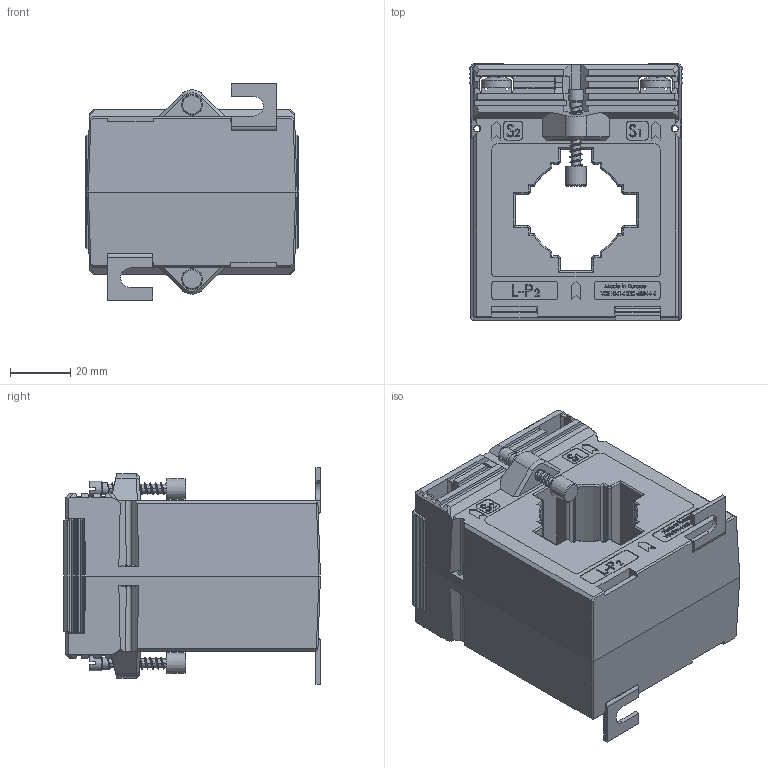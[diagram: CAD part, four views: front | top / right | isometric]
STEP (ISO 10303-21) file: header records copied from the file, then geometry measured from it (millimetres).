
FILE_DESCRIPTION(/* description */ (''),/* implementation_level */ '2;1');
FILE_NAME(/* name */ 'ASK41.5.stp',/* time_stamp */ '2024-03-04T12:42:42+01:00',/* author */ ('JDI'),/* organization */ (''),/* preprocessor_version */ 'ST-DEVELOPER v19.2',/* originating_system */ 'Autodesk Inventor 2023',/* authorisation */ '');
FILE_SCHEMA (('AUTOMOTIVE_DESIGN { 1 0 10303 214 3 1 1 }'));
Products named in the file (1): ASK41.5
Bounding box: 71 x 85.5 x 72 mm (x, y, z)
Volume: 228330.9 mm3; surface area: 46979.9 mm2
Topology: 1 solids, 1 shells, 1909 faces, 5055 edges, 3246 vertices
Faces by surface type: plane 1310, bspline 334, cylinder 206, cone 39, torus 12, sphere 8
Full cylindrical faces by diameter (mm): 2.95 x2, 3 x26, 3.8 x4, 4 x18, 4.1 x2, 5 x2, 10 x4
Entity records: 82455 total; most frequent: CARTESIAN_POINT 35577, ORIENTED_EDGE 10110, DIRECTION 7865, EDGE_CURVE 5055, LINE 3761, VECTOR 3761, VERTEX_POINT 3246, EDGE_LOOP 2077
